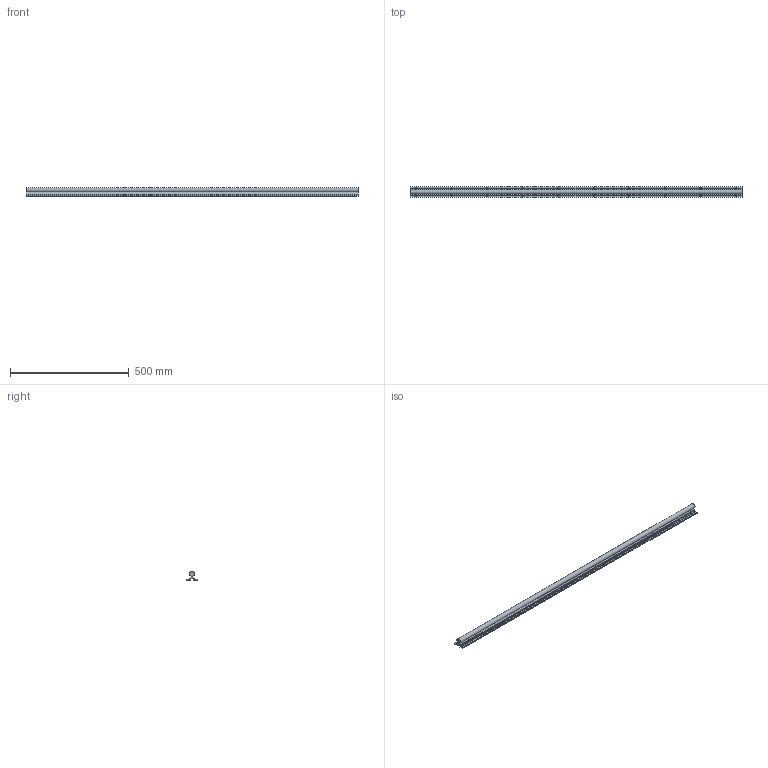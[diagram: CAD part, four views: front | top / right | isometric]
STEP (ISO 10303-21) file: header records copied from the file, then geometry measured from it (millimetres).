
FILE_DESCRIPTION(/* description */ (''),/* implementation_level */ '2;1');
FILE_NAME(/* name */ 'C:\Users\David\Desktop\stepFiles\Profilfuehrung\LFS20x1400.stp',/* time_stamp */ '2018-06-24T15:22:00+02:00',/* author */ ('Buskamp'),/* organization */ (''),/* preprocessor_version */ 'ST-DEVELOPER v17',/* originating_system */ 'Autodesk Inventor 2019',/* authorisation */ '');
FILE_SCHEMA (('AUTOMOTIVE_DESIGN { 1 0 10303 214 3 1 1 }'));
Length unit declared in the file: millimetre
Products named in the file (1): Linearführung D20xvariabel
Bounding box: 1400 x 45 x 37 mm (x, y, z)
Volume: 904399.6 mm3; surface area: 248528.7 mm2
Topology: 1 solids, 1 shells, 122 faces, 408 edges, 268 vertices
Faces by surface type: plane 85, cylinder 21, cone 16
Full cylindrical faces by diameter (mm): 5.5 x20
Entity records: 4581 total; most frequent: CARTESIAN_POINT 863, ORIENTED_EDGE 816, DIRECTION 780, EDGE_CURVE 408, AXIS2_PLACEMENT_3D 281, VERTEX_POINT 268, LINE 218, VECTOR 218
